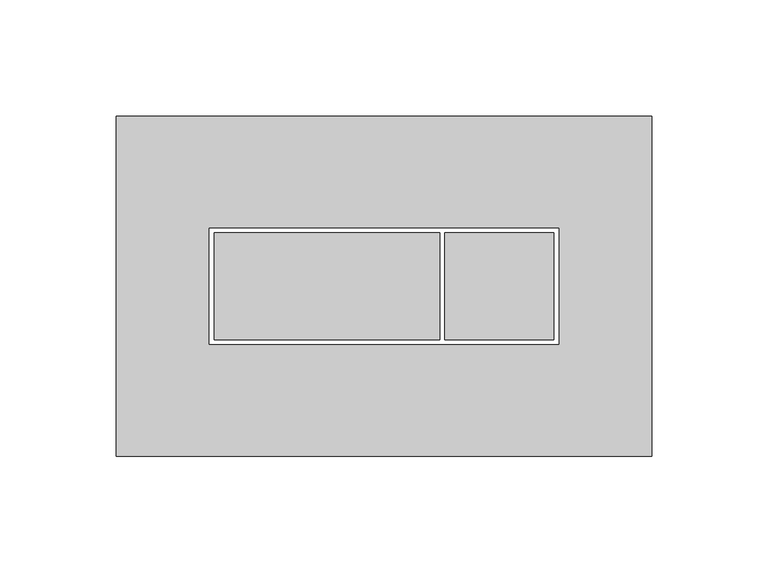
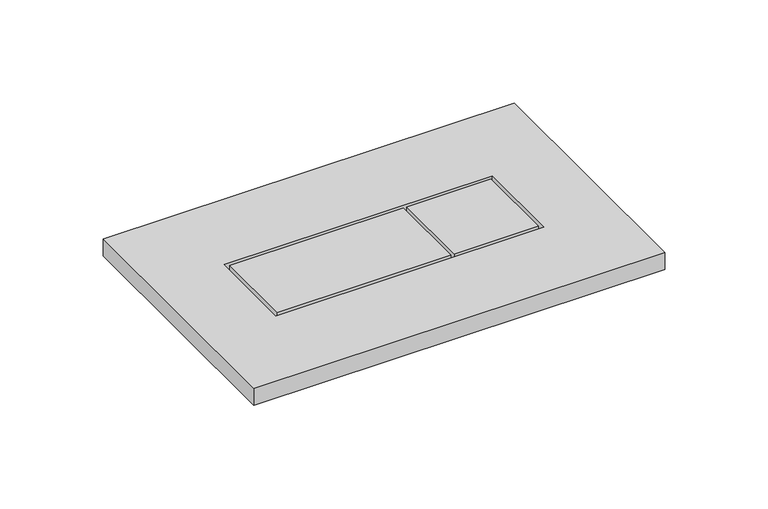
"""IFC4 building model written with IfcOpenShell, lengths in millimetres: sanitary terminal geometry, IS_Karisma_Multiproduct_BIM_GB_E4463_E4465 : E4463AA-Karisma flush plate dual flush, chrome, unbranded."""

from ifc_helpers import new_model, si_unit, origin, origin_with_axes, place, context, project, spatial, polyline, outline, extrude, source, transform, mapped, element, save


def sanitary_terminal_a1c712ac(model_context):
    return source(origin(), model_context, "Body", "SweptSolid", [
        extrude(outline(polyline([(115.0, 73.0), (115.0, -73.0), (-115.0, -73.0), (-115.0, 73.0), (115.0, 73.0)]), holes=[polyline([(75.0, -25.0), (75.0, 25.0), (-75.0, 25.0), (-75.0, -25.0), (75.0, -25.0)])]), origin_with_axes(), (0.0, 0.0, 1.0), 10.0),
        extrude(outline(polyline([(24.0, -23.0), (-73.0, -23.0), (-73.0, 23.0), (24.0, 23.0), (24.0, -23.0)])), origin_with_axes(), (0.0, 0.0, 1.0), 10.0),
        extrude(outline(polyline([(73.0, 23.0), (73.0, -23.0), (26.0, -23.0), (26.0, 23.0), (73.0, 23.0)])), origin_with_axes(), (0.0, 0.0, 1.0), 10.0),
    ])


if __name__ == "__main__":
    model = new_model("IFC4")
    model_context = context("Model", 3, world=origin())
    ifc_project = project(units=[si_unit("LENGTHUNIT", "METRE", prefix="MILLI")], contexts=[model_context])
    site = spatial("IfcSite", under=ifc_project)
    building = spatial("IfcBuilding", under=site)
    placement = place(None, origin())
    sanitary_terminal_shape = sanitary_terminal_a1c712ac(model_context)
    element("IfcSanitaryTerminal", 1, ObjectType="IS_Karisma_Multiproduct_BIM_GB_E4463_E4465 : E4463AA-Karisma flush plate dual flush, chrome, unbranded", at=placement, inside=building, context=model_context, shape_type="MappedRepresentation", body=[
        mapped(sanitary_terminal_shape, transform((0.0, 0.0, 0.0), x_axis=(1.0, 0.0, 0.0), y_axis=(0.0, 1.0, 0.0), z_axis=(0.0, 0.0, 1.0))),
    ])
    save(model, "model.ifc")
